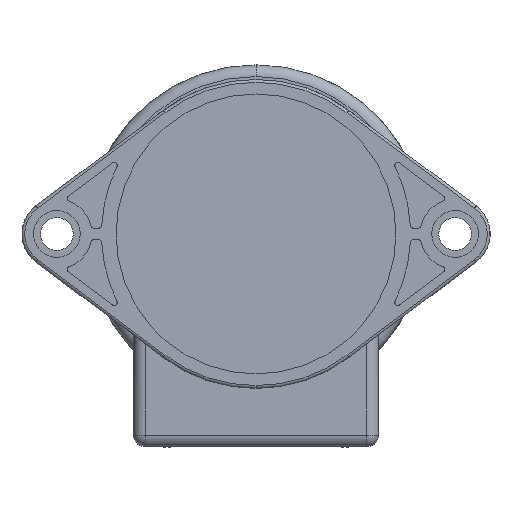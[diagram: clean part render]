
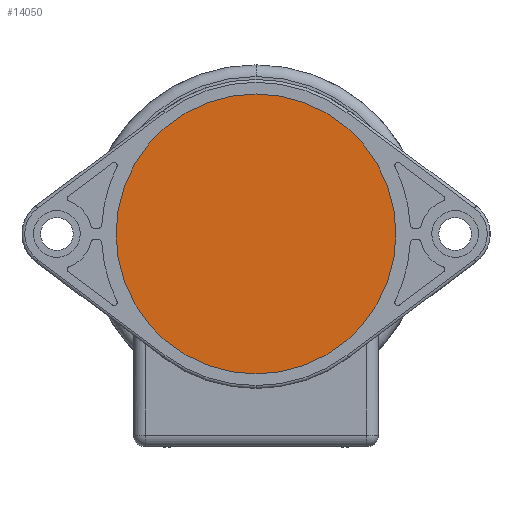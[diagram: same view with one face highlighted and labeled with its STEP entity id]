
A CAD part, front view. The second image highlights one B-rep face of the part: STEP entity #14050.
In plain terms, the highlighted planar face has unit normal (0, -1, 0).
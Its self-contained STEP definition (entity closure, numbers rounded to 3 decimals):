
#11098=CARTESIAN_POINT('',(0.,0.2,0.));
#11099=DIRECTION('',(0.,-1.,0.));
#11100=DIRECTION('',(0.,0.,1.));
#11101=AXIS2_PLACEMENT_3D('',#11098,#11099,#11100);
#11103=CARTESIAN_POINT('',(0.,0.2,0.));
#11104=DIRECTION('',(0.,-1.,0.));
#11105=DIRECTION('',(0.,0.,-1.));
#11106=AXIS2_PLACEMENT_3D('',#11103,#11104,#11105);
#12281=CARTESIAN_POINT('',(0.,0.2,-24.));
#12282=CARTESIAN_POINT('',(0.,0.2,24.));
#12283=VERTEX_POINT('',#12281);
#12284=VERTEX_POINT('',#12282);
#14041=CARTESIAN_POINT('',(0.,0.2,0.));
#14042=DIRECTION('',(0.,-1.,0.));
#14043=DIRECTION('',(0.,0.,1.));
#14044=AXIS2_PLACEMENT_3D('',#14041,#14042,#14043);
#14045=PLANE('',#14044);
#14046=ORIENTED_EDGE('',*,*,#14023,.F.);
#14047=ORIENTED_EDGE('',*,*,#14033,.F.);
#14048=EDGE_LOOP('',(#14046,#14047));
#14049=FACE_OUTER_BOUND('',#14048,.F.);
#14050=ADVANCED_FACE('',(#14049),#14045,.T.);
#11102=CIRCLE('',#11101,24.);
#11107=CIRCLE('',#11106,24.);
#14023=EDGE_CURVE('',#12284,#12283,#11102,.T.);
#14033=EDGE_CURVE('',#12283,#12284,#11107,.T.);
